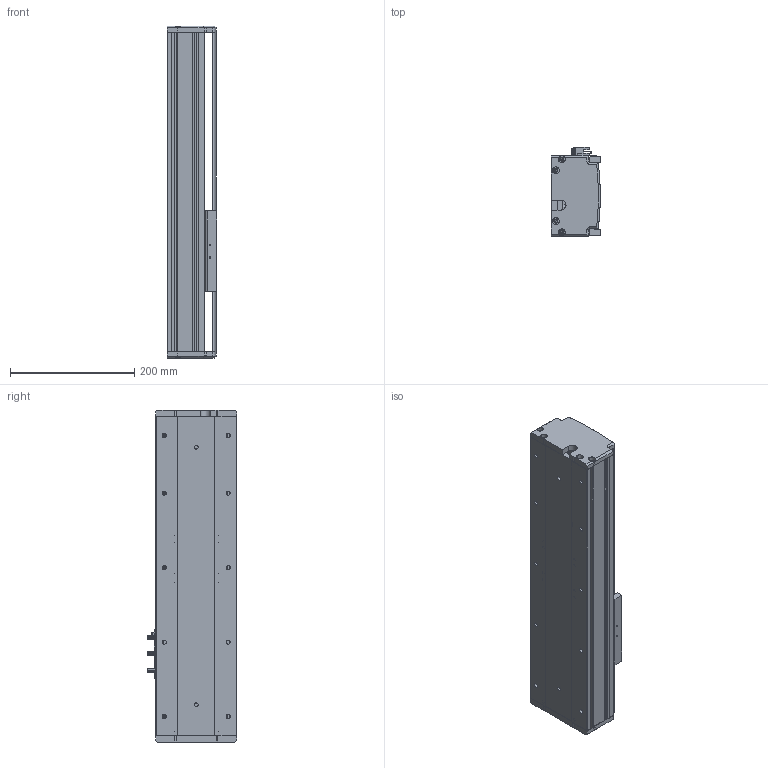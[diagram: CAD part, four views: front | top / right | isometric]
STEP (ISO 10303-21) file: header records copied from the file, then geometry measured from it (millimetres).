
FILE_DESCRIPTION (( 'STEP AP214' ), '1' );
FILE_NAME ('KSD130S-P2010-S50-M-CM.STEP', '2019-09-10T06:12:01', ( '微软用户' ), ( '微软中国' ), 'SwSTEP 2.0', 'SolidWorks 2014', '' );
FILE_SCHEMA (( 'AUTOMOTIVE_DESIGN' ));
Length unit declared in the file: millimetre
Products named in the file (8): U倰嫖萇EEㄜSX672; 130宽盖板半封闭丝杠内装-50行程; 130宽端盖半封闭-内装; 130宽底板半封闭丝杠内装-50行程; KSD130S-P2010-S50-M-CM; 覜茼え100遵圉猾敕; 130宽滚珠丝杆安装板半封闭-内装-20丝杆; 130宽马达安装板半封闭-内装
Assembly tree (9 placements, depth 2):
  KSD130S-P2010-S50-M-CM
    130宽底板半封闭丝杠内装-50行程
    130宽端盖半封闭-内装
    130宽盖板半封闭丝杠内装-50行程
    U倰嫖萇EEㄜSX672  x3
    130宽马达安装板半封闭-内装
    130宽滚珠丝杆安装板半封闭-内装-20丝杆
    覜茼え100遵圉猾敕
Bounding box: 80 x 143.7 x 535 mm (x, y, z)
Volume: 1849180.5 mm3; surface area: 554917.2 mm2
Topology: 9 solids, 9 shells, 955 faces, 2724 edges, 1748 vertices
Faces by surface type: plane 431, cylinder 410, cone 114
Entity records: 29386 total; most frequent: CARTESIAN_POINT 5453, DIRECTION 4302, ORIENTED_EDGE 4216, EDGE_CURVE 2108, AXIS2_PLACEMENT_3D 1541, VERTEX_POINT 1372, LINE 1220, VECTOR 1220
